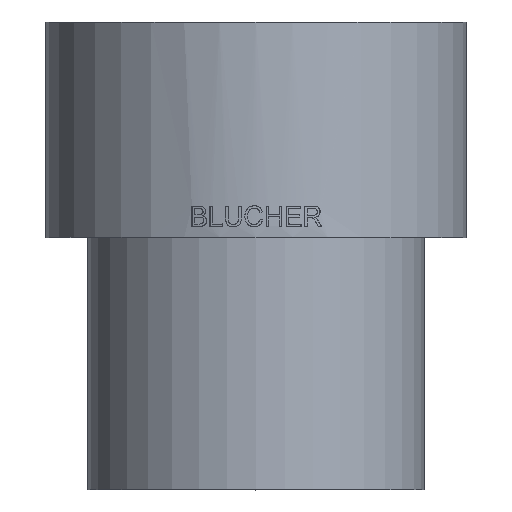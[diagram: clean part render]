
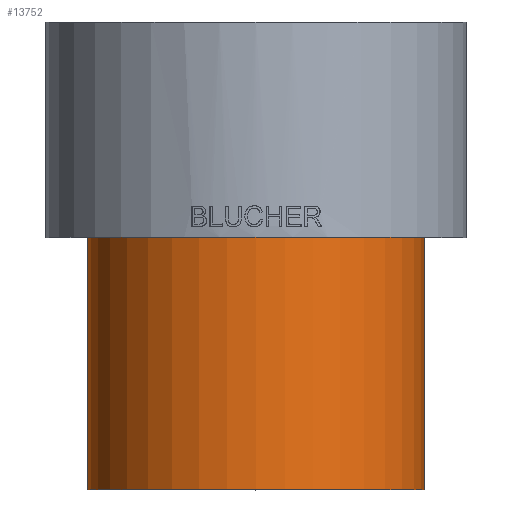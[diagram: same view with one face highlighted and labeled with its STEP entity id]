
A CAD part, top view. The second image highlights one B-rep face of the part: STEP entity #13752.
In plain terms, the highlighted cylindrical face has radius 50.8 mm (diameter 101.6 mm), a full revolution.
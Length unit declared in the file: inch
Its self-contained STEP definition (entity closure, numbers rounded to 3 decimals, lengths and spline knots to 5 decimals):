
#13721=CARTESIAN_POINT('',(2.0,3.0,0.0));
#13722=VERTEX_POINT('',#13721);
#13723=CARTESIAN_POINT('',(0.0,3.0,0.0));
#13724=DIRECTION('',(0.0,-1.0,0.0));
#13725=DIRECTION('',(1.0,0.0,0.0));
#13726=AXIS2_PLACEMENT_3D('',#13723,#13724,#13725);
#13727=CIRCLE('',#13726,2.0);
#13728=EDGE_CURVE('',#13722,#13722,#13727,.T.);
#13733=CARTESIAN_POINT('',(0.0,1.5,0.0));
#13734=DIRECTION('',(0.0,-1.0,0.0));
#13735=DIRECTION('',(1.0,0.0,0.0));
#13736=AXIS2_PLACEMENT_3D('',#13733,#13734,#13735);
#13737=CYLINDRICAL_SURFACE('',#13736,2.0);
#13738=CARTESIAN_POINT('',(2.0,0.0,0.0));
#13739=VERTEX_POINT('',#13738);
#13740=CARTESIAN_POINT('',(0.0,0.0,0.0));
#13741=DIRECTION('',(0.0,-1.0,0.0));
#13742=DIRECTION('',(1.0,0.0,0.0));
#13743=AXIS2_PLACEMENT_3D('',#13740,#13741,#13742);
#13744=CIRCLE('',#13743,2.0);
#13745=EDGE_CURVE('',#13739,#13739,#13744,.T.);
#13746=ORIENTED_EDGE('',*,*,#13745,.F.);
#13747=EDGE_LOOP('',(#13746));
#13748=FACE_OUTER_BOUND('',#13747,.T.);
#13749=ORIENTED_EDGE('',*,*,#13728,.T.);
#13750=EDGE_LOOP('',(#13749));
#13751=FACE_BOUND('',#13750,.T.);
#13752=ADVANCED_FACE('',(#13748,#13751),#13737,.T.);
